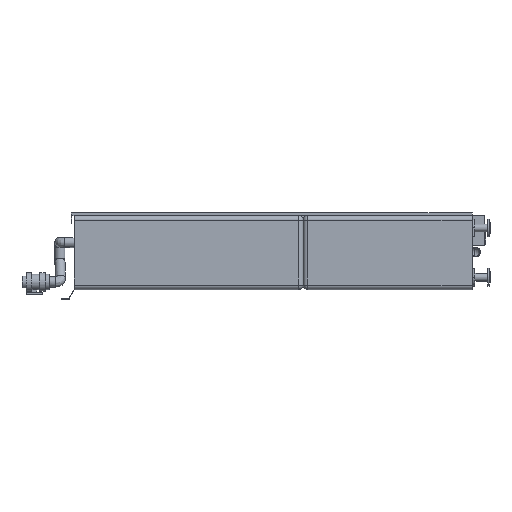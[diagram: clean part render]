
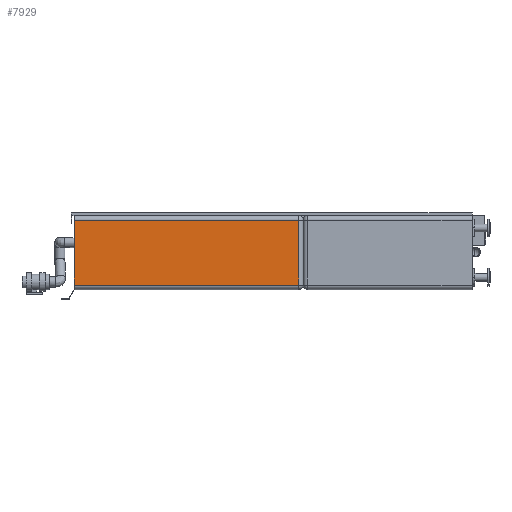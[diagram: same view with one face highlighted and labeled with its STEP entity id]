
A CAD part, left-side view. The second image highlights one B-rep face of the part: STEP entity #7929.
In plain terms, the highlighted planar face has unit normal (-1, 0, 0).
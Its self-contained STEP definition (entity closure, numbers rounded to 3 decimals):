
#836=FACE_OUTER_BOUND('',#1383,.T.);
#1383=EDGE_LOOP('',(#6872,#6873,#6874,#6875));
#2295=LINE('',#13353,#3101);
#2296=LINE('',#13357,#3102);
#2297=LINE('',#13361,#3103);
#2298=LINE('',#13362,#3104);
#3101=VECTOR('',#10306,10.);
#3102=VECTOR('',#10311,10.);
#3103=VECTOR('',#10316,10.);
#3104=VECTOR('',#10317,10.);
#3814=VERTEX_POINT('',#13350);
#3815=VERTEX_POINT('',#13352);
#3816=VERTEX_POINT('',#13356);
#3817=VERTEX_POINT('',#13360);
#4850=EDGE_CURVE('',#3814,#3815,#2295,.T.);
#4852=EDGE_CURVE('',#3815,#3816,#2296,.T.);
#4854=EDGE_CURVE('',#3814,#3817,#2297,.T.);
#4855=EDGE_CURVE('',#3816,#3817,#2298,.T.);
#6872=ORIENTED_EDGE('',*,*,#4850,.F.);
#6873=ORIENTED_EDGE('',*,*,#4854,.T.);
#6874=ORIENTED_EDGE('',*,*,#4855,.F.);
#6875=ORIENTED_EDGE('',*,*,#4852,.F.);
#7498=PLANE('',#8515);
#7929=ADVANCED_FACE('',(#836),#7498,.T.);
#8515=AXIS2_PLACEMENT_3D('',#13359,#10314,#10315);
#10306=DIRECTION('',(0.,1.,0.));
#10311=DIRECTION('',(0.,0.,1.));
#10314=DIRECTION('center_axis',(-1.,0.,0.));
#10315=DIRECTION('ref_axis',(0.,-1.,0.));
#10316=DIRECTION('',(0.,0.,1.));
#10317=DIRECTION('',(0.,-1.,0.));
#13350=CARTESIAN_POINT('',(0.,774.,20.));
#13352=CARTESIAN_POINT('',(0.,1777.,20.));
#13353=CARTESIAN_POINT('',(0.,1332.75,20.));
#13356=CARTESIAN_POINT('',(0.,1777.,310.));
#13357=CARTESIAN_POINT('',(0.,1777.,0.));
#13359=CARTESIAN_POINT('Origin',(0.,1777.,0.));
#13360=CARTESIAN_POINT('',(0.,774.,310.));
#13361=CARTESIAN_POINT('',(0.,774.,20.));
#13362=CARTESIAN_POINT('',(0.,1332.75,310.));
